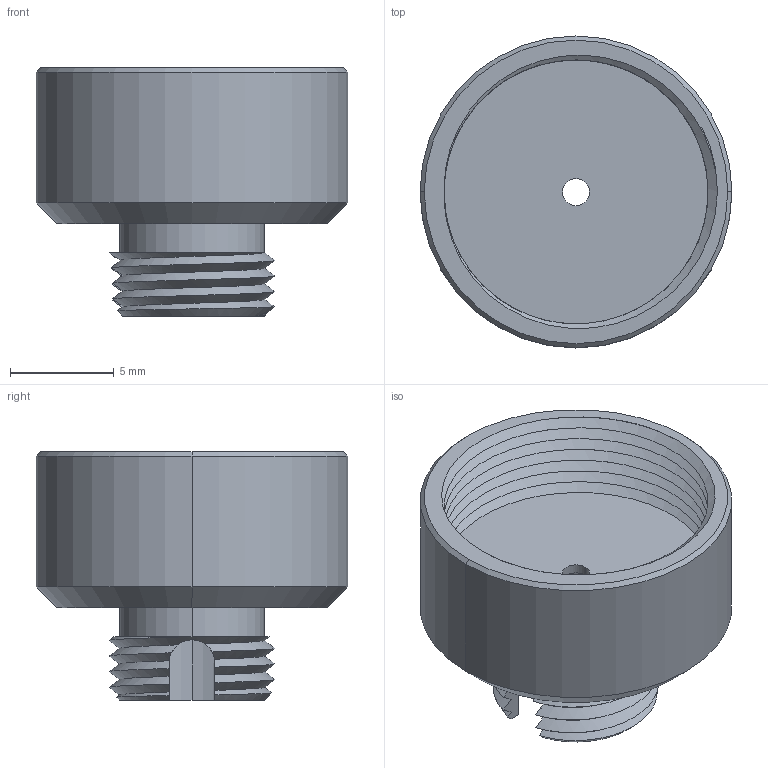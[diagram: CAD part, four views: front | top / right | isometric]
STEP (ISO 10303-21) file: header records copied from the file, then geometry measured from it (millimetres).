
FILE_DESCRIPTION (( 'STEP AP214' ), '1' );
FILE_NAME ('14175-E01.step', '2007-11-13T11:06:40', ( ' ' ), ( ' ' ), 'SwSTEP 2.0', 'SolidWorks 2007', '' );
FILE_SCHEMA (( 'AUTOMOTIVE_DESIGN' ));
Length unit declared in the file: millimetre
Products named in the file (1): 14175-E01
Bounding box: 15 x 15 x 11.95 mm (x, y, z)
Volume: 762.4 mm3; surface area: 1229.9 mm2
Topology: 1 solids, 1 shells, 43 faces, 107 edges, 70 vertices
Faces by surface type: bspline 15, cylinder 11, plane 9, cone 8
Entity records: 5343 total; most frequent: CARTESIAN_POINT 4453, ORIENTED_EDGE 214, DIRECTION 134, EDGE_CURVE 107, VERTEX_POINT 70, AXIS2_PLACEMENT_3D 56, EDGE_LOOP 49, FACE_OUTER_BOUND 43
